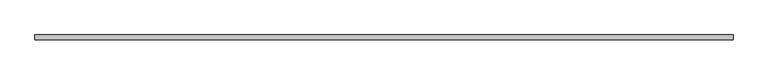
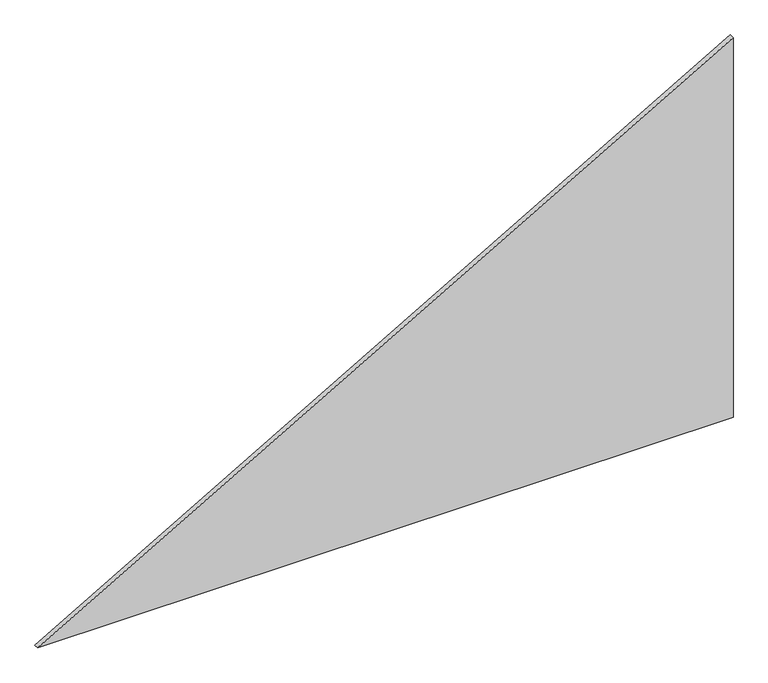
"""IFC4 building model written with IfcOpenShell, lengths in millimetres: plate geometry, 系統嵌板 : 玻璃 1.0cm."""

import ifcopenshell
import ifcopenshell.guid

model = None  # the IFC model being written
_history = None  # IfcOwnerHistory: only IFC2X3 demands one
_inside = {}  # id of a spatial element -> (the spatial element, [elements in it])
_under = {}  # id of a project, library or spatial element -> (it, [spatial elements below it])
_declared = {}  # id of a project -> (the project, [libraries it declares])
_typed = {}  # id of a type object -> (the type object, [elements of that type])
_made_of = {}  # id of a material, layer set ... -> (it, [elements and type objects made of it])


def new_model(schema):
    """Start an empty IFC model of exactly this schema.

    Asked for "IFC4X3", IfcOpenShell would pick the latest addendum, in which some entities
    have other attributes; the version numbers below select the first issue.
    IFC2X3 requires an IfcOwnerHistory on every rooted entity: one is made here for all.
    """
    global model, _history
    if schema == "IFC4X3":
        model = ifcopenshell.file(schema_version=(4, 3, 0, 0))
    else:
        model = ifcopenshell.file(schema=schema)
    _inside.clear()
    _under.clear()
    _declared.clear()
    _typed.clear()
    _made_of.clear()
    _history = None
    if model.schema == "IFC2X3":
        org = make("IfcOrganization", Name="unknown")
        user = make(
            "IfcPersonAndOrganization",
            ThePerson=make("IfcPerson", FamilyName="unknown"),
            TheOrganization=org,
        )
        app = make(
            "IfcApplication",
            ApplicationDeveloper=org,
            Version="unknown",
            ApplicationFullName="unknown",
            ApplicationIdentifier="unknown",
        )
        _history = make(
            "IfcOwnerHistory",
            OwningUser=user,
            OwningApplication=app,
            ChangeAction="ADDED",
            CreationDate=0,
        )
    return model


def make(cls, **values):
    """One entity of the class cls with the attributes given. An attribute that is None is left unset."""
    return model.create_entity(
        cls, **{name: value for name, value in values.items() if value is not None}
    )


def rooted(cls, **values):
    """An entity with a GlobalId (a new one), such as an element, a storey or a relation."""
    return make(cls, GlobalId=ifcopenshell.guid.new(), OwnerHistory=_history, **values)


def si_unit(unit_type, name, prefix=None):
    """IfcSIUnit, for example si_unit("LENGTHUNIT", "METRE", prefix="MILLI")."""
    return make("IfcSIUnit", UnitType=unit_type, Prefix=prefix, Name=name)


def assignment(units):
    """IfcUnitAssignment: the units of a project."""
    return None if units is None else make("IfcUnitAssignment", Units=units)


def point(xyz):
    """IfcCartesianPoint."""
    return None if xyz is None else make("IfcCartesianPoint", Coordinates=xyz)


def direction(xyz):
    """IfcDirection."""
    return None if xyz is None else make("IfcDirection", DirectionRatios=xyz)


def frame(location, z_axis=None, x_axis=None):
    """IfcAxis2Placement3D, a coordinate frame: its origin and axes. An axis left out is left unset."""
    return make(
        "IfcAxis2Placement3D",
        Location=point(location),
        Axis=direction(z_axis),
        RefDirection=direction(x_axis),
    )


def origin():
    """The frame at (0, 0, 0) with its axes left unset."""
    return frame((0.0, 0.0, 0.0))


def place(relative_to, where):
    """IfcLocalPlacement: puts the frame where relative to a parent placement (None: the world)."""
    return make(
        "IfcLocalPlacement", PlacementRelTo=relative_to, RelativePlacement=where
    )


def context(
    kind, dimensions, precision=None, world=None, true_north=None, identifier=None
):
    """IfcGeometricRepresentationContext, for example the 3D "Model" context."""
    return make(
        "IfcGeometricRepresentationContext",
        ContextIdentifier=identifier,
        ContextType=kind,
        CoordinateSpaceDimension=dimensions,
        Precision=precision,
        WorldCoordinateSystem=world,
        TrueNorth=true_north,
    )


def project(units=None, contexts=None):
    """IfcProject with its units and contexts."""
    return rooted(
        "IfcProject",
        Name="project",
        RepresentationContexts=contexts,
        UnitsInContext=assignment(units),
    )


def spatial(cls, under=None, at=None, **own):
    """A site, building, storey or space (cls), placed at a placement, below another one or the project."""
    s = rooted(cls, ObjectPlacement=at, **own)
    if under is not None:
        _under.setdefault(under.id(), (under, []))[1].append(s)
    return s


def polyline(points):
    """IfcPolyline through the points."""
    return make("IfcPolyline", Points=[point(p) for p in points])


def outline(outer, holes=None, kind="AREA"):
    """IfcArbitraryClosedProfileDef: a profile drawn as a closed curve; with holes, ...WithVoids."""
    if holes is None:
        return make("IfcArbitraryClosedProfileDef", ProfileType=kind, OuterCurve=outer)
    return make(
        "IfcArbitraryProfileDefWithVoids",
        ProfileType=kind,
        OuterCurve=outer,
        InnerCurves=holes,
    )


def extrude(swept, where, along, depth):
    """IfcExtrudedAreaSolid: the profile swept, set in the frame where, extruded along a direction by depth."""
    return make(
        "IfcExtrudedAreaSolid",
        SweptArea=swept,
        Position=where,
        ExtrudedDirection=direction(along),
        Depth=depth,
    )


def shape(context_of_items, identifier, shape_type, items):
    """IfcShapeRepresentation: the items that make up one representation, for example the "Body"."""
    return make(
        "IfcShapeRepresentation",
        ContextOfItems=context_of_items,
        RepresentationIdentifier=identifier,
        RepresentationType=shape_type,
        Items=items,
    )


def source(mapping_origin, context_of_items, identifier, shape_type, items):
    """IfcRepresentationMap: a shape defined once, which mapped items show again and again."""
    return make(
        "IfcRepresentationMap",
        MappingOrigin=mapping_origin,
        MappedRepresentation=shape(context_of_items, identifier, shape_type, items),
    )


def transform(
    local_origin,
    x_axis=None,
    y_axis=None,
    z_axis=None,
    scale=None,
    scale2=None,
    scale3=None,
    uniform=True,
):
    """IfcCartesianTransformationOperator3D, or its non-uniform kind. x_axis, y_axis, z_axis: its Axis1, 2, 3."""
    if uniform:
        return make(
            "IfcCartesianTransformationOperator3D",
            Axis1=direction(x_axis),
            Axis2=direction(y_axis),
            LocalOrigin=point(local_origin),
            Scale=scale,
            Axis3=direction(z_axis),
        )
    return make(
        "IfcCartesianTransformationOperator3DnonUniform",
        Axis1=direction(x_axis),
        Axis2=direction(y_axis),
        LocalOrigin=point(local_origin),
        Scale=scale,
        Axis3=direction(z_axis),
        Scale2=scale2,
        Scale3=scale3,
    )


def mapped(mapping_source, mapping_target):
    """IfcMappedItem: shows the shape of a source again, moved by a transform."""
    return make(
        "IfcMappedItem", MappingSource=mapping_source, MappingTarget=mapping_target
    )


def made_of(thing, what):
    """Note that an element or type object is made of a material, layer set ...; save() writes the relation."""
    if what is not None:
        _made_of.setdefault(what.id(), (what, []))[1].append(thing)
    return thing


def element(
    cls,
    number,
    at=None,
    inside=None,
    cuts=None,
    type_object=None,
    material=None,
    context=None,
    identifier="Body",
    shape_type=None,
    held_by="IfcProductDefinitionShape",
    body=None,
    shapes=None,
    **own,
):
    """One element of the class cls, such as IfcWall. Its Tag is "e" and its number.

    at: its placement. inside: the storey or other place that contains it. cuts: it is an
    opening in that element (IfcRelVoidsElement). A single representation is given by context,
    identifier, shape_type and body (its items); several are given by shapes. held_by: the class
    of the entity that holds the representations. save() writes the other relations.
    """
    e = rooted(cls, Tag="e%d" % number, ObjectPlacement=at, **own)
    if body is not None:
        shapes = [shape(context, identifier, shape_type, body)]
    if shapes is not None:
        e.Representation = make(held_by, Representations=shapes)
    if inside is not None:
        _inside.setdefault(inside.id(), (inside, []))[1].append(e)
    if cuts is not None:
        rooted(
            "IfcRelVoidsElement", RelatingBuildingElement=cuts, RelatedOpeningElement=e
        )
    if type_object is not None:
        _typed.setdefault(type_object.id(), (type_object, []))[1].append(e)
    return made_of(e, material)


def aggregate(whole, parts):
    """IfcRelAggregates: a whole, such as a stair, and the parts it consists of."""
    return rooted("IfcRelAggregates", RelatingObject=whole, RelatedObjects=parts)


def save(model, path):
    """Write the relations noted so far, then the file.

    IfcRelAggregates (storeys below a building ...), IfcRelContainedInSpatialStructure (elements
    in a storey), IfcRelDefinesByType, IfcRelAssociatesMaterial and IfcRelDeclares: one each for
    every whole, place, type object, material and project.
    """
    for whole, parts in _under.values():
        aggregate(whole, parts)
    for where, things in _inside.values():
        rooted(
            "IfcRelContainedInSpatialStructure",
            RelatedElements=things,
            RelatingStructure=where,
        )
    for kind, things in _typed.values():
        rooted("IfcRelDefinesByType", RelatedObjects=things, RelatingType=kind)
    for what, things in _made_of.values():
        rooted("IfcRelAssociatesMaterial", RelatedObjects=things, RelatingMaterial=what)
    for by, libraries in _declared.values():
        rooted("IfcRelDeclares", RelatingContext=by, RelatedDefinitions=libraries)
    model.write(path)


def plate_4ca05de4(model_context):
    return source(origin(), model_context, "Body", "SweptSolid", [
        extrude(outline(polyline([(0.0, -750.0), (0.0, 750.0), (866.0254038, 750.0), (0.0, -750.0)])), frame((0.0, -5.0, 0.0), z_axis=(0.0, 1.0, 0.0), x_axis=(0.0, 0.0, 1.0)), (0.0, 0.0, 1.0), 10.0),
    ])


if __name__ == "__main__":
    model = new_model("IFC4")
    model_context = context("Model", 3, world=origin())
    ifc_project = project(units=[si_unit("LENGTHUNIT", "METRE", prefix="MILLI")], contexts=[model_context])
    site = spatial("IfcSite", under=ifc_project)
    building = spatial("IfcBuilding", under=site)
    placement = place(None, origin())
    plate_shape = plate_4ca05de4(model_context)
    element("IfcPlate", 1, ObjectType="系統嵌板 : 玻璃 1.0cm", at=placement, inside=building, context=model_context, shape_type="MappedRepresentation", body=[
        mapped(plate_shape, transform((0.0, 0.0, 0.0), x_axis=(1.0, 0.0, 0.0), y_axis=(0.0, 1.0, 0.0), z_axis=(0.0, 0.0, 1.0))),
    ])
    save(model, "model.ifc")
